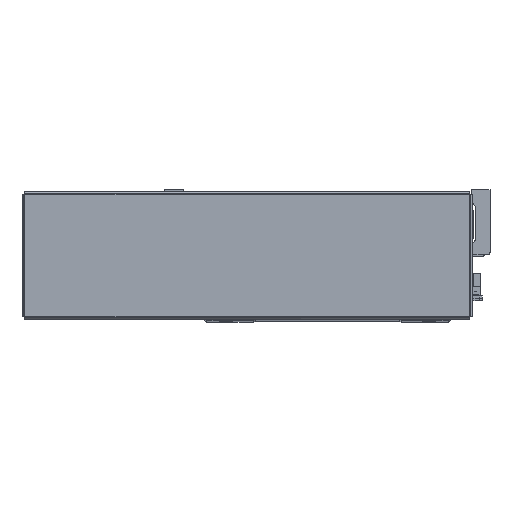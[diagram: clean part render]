
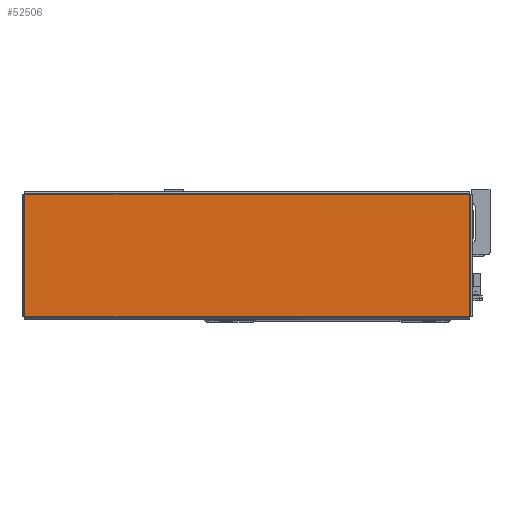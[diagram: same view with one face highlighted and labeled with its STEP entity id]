
A CAD part, top view. The second image highlights one B-rep face of the part: STEP entity #52506.
In plain terms, the highlighted planar face has unit normal (0, 0, 1) as drawn and (0, -1, 0) by its records, which use the part's own axes.
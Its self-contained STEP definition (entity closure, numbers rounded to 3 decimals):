
#1437 = EDGE_LOOP ( 'NONE', ( #27012, #27088, #27029, #27087 ) ) ;
#3025 = PLANE ( 'NONE',  #19999 ) ;
#3033 = DIRECTION ( 'NONE',  ( 0., 0., 1. ) ) ;
#3034 = CARTESIAN_POINT ( 'NONE',  ( 0., -1.2, 0. ) ) ;
#3072 = DIRECTION ( 'NONE',  ( 0., 1., 0. ) ) ;
#12946 = LINE ( 'NONE', #29443, #13005 ) ;
#12960 = LINE ( 'NONE', #29500, #12970 ) ;
#12968 = VECTOR ( 'NONE', #29416, 1000. ) ;
#12970 = VECTOR ( 'NONE', #29506, 1000. ) ;
#12974 = LINE ( 'NONE', #29415, #12968 ) ;
#12987 = LINE ( 'NONE', #29555, #12988 ) ;
#12988 = VECTOR ( 'NONE', #29548, 1000. ) ;
#13005 = VECTOR ( 'NONE', #29453, 1000. ) ;
#13981 = FACE_OUTER_BOUND ( 'NONE', #1437, .T. ) ;
#19999 = AXIS2_PLACEMENT_3D ( 'NONE', #3034, #3072, #3033 ) ;
#24420 = CARTESIAN_POINT ( 'NONE',  ( -154.013, -1.2, 42.263 ) ) ;
#24444 = CARTESIAN_POINT ( 'NONE',  ( 154.013, -1.2, 42.263 ) ) ;
#24449 = CARTESIAN_POINT ( 'NONE',  ( -154.013, -1.2, -42.263 ) ) ;
#24457 = CARTESIAN_POINT ( 'NONE',  ( 154.013, -1.2, -42.263 ) ) ;
#27012 = ORIENTED_EDGE ( 'NONE', *, *, #35605, .T. ) ;
#27029 = ORIENTED_EDGE ( 'NONE', *, *, #35571, .T. ) ;
#27087 = ORIENTED_EDGE ( 'NONE', *, *, #35569, .T. ) ;
#27088 = ORIENTED_EDGE ( 'NONE', *, *, #35592, .T. ) ;
#29415 = CARTESIAN_POINT ( 'NONE',  ( -154.043, -1.2, -42.263 ) ) ;
#29416 = DIRECTION ( 'NONE',  ( 1., 0., 0. ) ) ;
#29443 = CARTESIAN_POINT ( 'NONE',  ( -154.013, -1.2, 42.293 ) ) ;
#29453 = DIRECTION ( 'NONE',  ( 0., 0., -1. ) ) ;
#29500 = CARTESIAN_POINT ( 'NONE',  ( 154.043, -1.2, 42.263 ) ) ;
#29506 = DIRECTION ( 'NONE',  ( -1., 0., 0. ) ) ;
#29548 = DIRECTION ( 'NONE',  ( 0., 0., 1. ) ) ;
#29555 = CARTESIAN_POINT ( 'NONE',  ( 154.013, -1.2, -42.293 ) ) ;
#31245 = VERTEX_POINT ( 'NONE', #24444 ) ;
#31257 = VERTEX_POINT ( 'NONE', #24457 ) ;
#31259 = VERTEX_POINT ( 'NONE', #24449 ) ;
#31281 = VERTEX_POINT ( 'NONE', #24420 ) ;
#35569 = EDGE_CURVE ( 'NONE', #31259, #31257, #12974, .T. ) ;
#35571 = EDGE_CURVE ( 'NONE', #31281, #31259, #12946, .T. ) ;
#35592 = EDGE_CURVE ( 'NONE', #31245, #31281, #12960, .T. ) ;
#35605 = EDGE_CURVE ( 'NONE', #31257, #31245, #12987, .T. ) ;
#52506 = ADVANCED_FACE ( 'NONE', ( #13981 ), #3025, .F. ) ;
